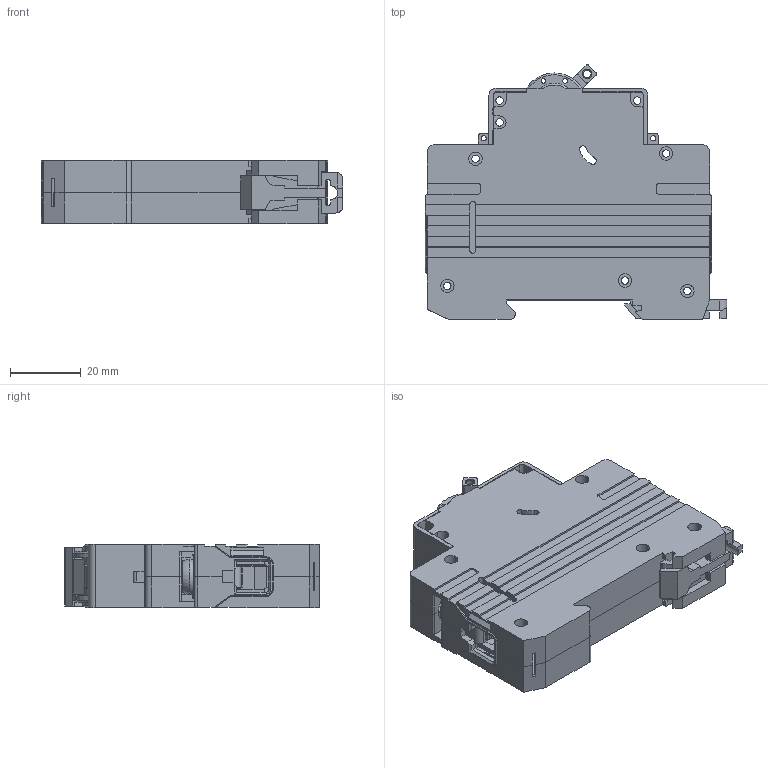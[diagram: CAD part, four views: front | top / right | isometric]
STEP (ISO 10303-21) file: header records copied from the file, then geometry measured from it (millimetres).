
FILE_DESCRIPTION (( 'STEP AP214' ), '1' );
FILE_NAME ('OptiDin ÂÌ63 - 1 ïîëþñ.STEP', '2022-11-15T06:50:42', ( '' ), ( '' ), 'SwSTEP 2.0', 'SolidWorks 2018', '' );
FILE_SCHEMA (( 'AUTOMOTIVE_DESIGN' ));
Length unit declared in the file: millimetre
Products named in the file (8): Áîêîâèíà ëåâàÿ ÃÆÈÊ.735224.139 (ïóñòàÿ).step; Çàù¸ëêà ÃÆÈÊ.741358.031.step; ﾂ鏆鮏 ﾃﾆﾈﾊ.745315.008.step; 妈眚 闷仁.758151.057.step; Áîêîâèíà ïðàâàÿ ÃÆÈÊ.735224.140 (ïóñòàÿ).step; OptiDin ÂÌ63 - 1 ïîëþñ; Êîëîäêà ÃÆÈÊ.745418.015.step; Ðó÷êà ÃÆÈÊ.753725.016
Assembly tree (10 placements, depth 2):
  OptiDin ÂÌ63 - 1 ïîëþñ
    Áîêîâèíà ïðàâàÿ ÃÆÈÊ.735224.140 (ïóñòàÿ).step
    Áîêîâèíà ëåâàÿ ÃÆÈÊ.735224.139 (ïóñòàÿ).step
    Ðó÷êà ÃÆÈÊ.753725.016
    ﾂ鏆鮏 ﾃﾆﾈﾊ.745315.008.step  x2
    Êîëîäêà ÃÆÈÊ.745418.015.step  x2
    妈眚 闷仁.758151.057.step  x2
    Çàù¸ëêà ÃÆÈÊ.741358.031.step
Bounding box: 85.5 x 72.19 x 17.9 mm (x, y, z)
Volume: 30625.8 mm3; surface area: 40950.7 mm2
Topology: 10 solids, 24 shells, 1782 faces, 4846 edges, 3142 vertices
Faces by surface type: plane 1268, cylinder 469, cone 29, torus 12, bspline 4
Entity records: 55049 total; most frequent: CARTESIAN_POINT 8845, ORIENTED_EDGE 8334, DIRECTION 8026, EDGE_CURVE 4167, VECTOR 3224, LINE 3224, VERTEX_POINT 2716, AXIS2_PLACEMENT_3D 2401
